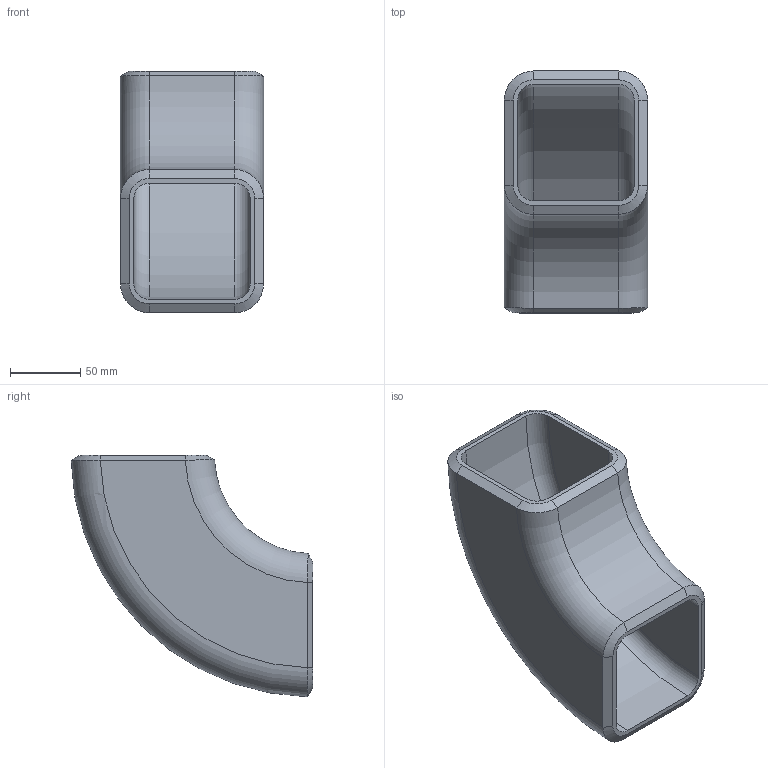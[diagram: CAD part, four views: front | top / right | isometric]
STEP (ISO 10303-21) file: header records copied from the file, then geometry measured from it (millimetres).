
FILE_DESCRIPTION((''),'2;1');
FILE_NAME('C:\Documents and Settings\bamfomg\Desktop\Owens corners\STP FILES\4x4x0.375 - Steel.stp','2011-03-21T13:15:39',('bamfomg'),(''),'Autodesk Inventor 2011','Autodesk Inventor 2011','');
FILE_SCHEMA(('AUTOMOTIVE_DESIGN { 1 0 10303 214 1 1 1 1 }'));
Length unit declared in the file: inch
Products named in the file (1): Square Tube Corners
Bounding box: 101.6 x 171.41 x 171.41 mm (x, y, z)
Volume: 607617.8 mm3; surface area: 133791.8 mm2
Topology: 1 solids, 1 shells, 34 faces, 80 edges, 48 vertices
Faces by surface type: bspline 16, torus 8, plane 6, cylinder 4
Entity records: 1556 total; most frequent: CARTESIAN_POINT 871, ORIENTED_EDGE 160, DIRECTION 94, EDGE_CURVE 80, VERTEX_POINT 48, B_SPLINE_CURVE_WITH_KNOTS 46, AXIS2_PLACEMENT_3D 43, EDGE_LOOP 36
